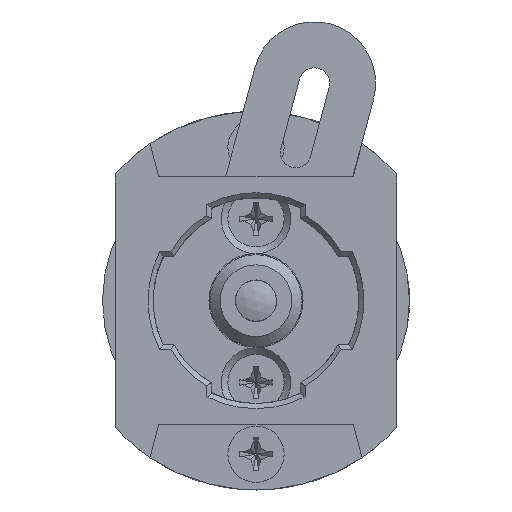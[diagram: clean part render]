
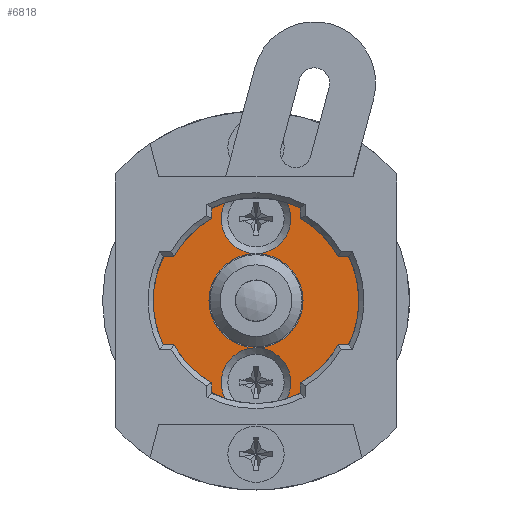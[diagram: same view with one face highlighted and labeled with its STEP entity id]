
A CAD part, left-side view. The second image highlights one B-rep face of the part: STEP entity #6818.
In plain terms, the highlighted planar face has unit normal (-1, 0, 0).
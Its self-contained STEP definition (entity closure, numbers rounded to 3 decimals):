
#280=LINE('',#9471,#686);
#283=LINE('',#9479,#689);
#686=VECTOR('',#7846,1000.);
#689=VECTOR('',#7855,1000.);
#1113=ORIENTED_EDGE('',*,*,#2537,.T.);
#1114=ORIENTED_EDGE('',*,*,#2538,.T.);
#1115=ORIENTED_EDGE('',*,*,#2530,.T.);
#1116=ORIENTED_EDGE('',*,*,#2536,.T.);
#1117=ORIENTED_EDGE('',*,*,#2534,.T.);
#1118=ORIENTED_EDGE('',*,*,#2532,.T.);
#1119=ORIENTED_EDGE('',*,*,#2539,.T.);
#1120=ORIENTED_EDGE('',*,*,#2540,.T.);
#1121=ORIENTED_EDGE('',*,*,#2541,.T.);
#1122=ORIENTED_EDGE('',*,*,#2542,.T.);
#2530=EDGE_CURVE('',#3246,#3245,#3744,.T.);
#2532=EDGE_CURVE('',#3247,#3246,#280,.T.);
#2534=EDGE_CURVE('',#3248,#3247,#3745,.T.);
#2536=EDGE_CURVE('',#3245,#3248,#283,.T.);
#2537=EDGE_CURVE('',#3249,#3249,#3746,.F.);
#2538=EDGE_CURVE('',#3250,#3250,#3747,.F.);
#2539=EDGE_CURVE('',#3251,#3252,#3748,.T.);
#2540=EDGE_CURVE('',#3252,#3252,#3749,.T.);
#2541=EDGE_CURVE('',#3252,#3251,#3750,.T.);
#2542=EDGE_CURVE('',#3251,#3251,#3751,.T.);
#3245=VERTEX_POINT('',#9466);
#3246=VERTEX_POINT('',#9468);
#3247=VERTEX_POINT('',#9472);
#3248=VERTEX_POINT('',#9476);
#3249=VERTEX_POINT('',#9482);
#3250=VERTEX_POINT('',#9484);
#3251=VERTEX_POINT('',#9486);
#3252=VERTEX_POINT('',#9487);
#3744=CIRCLE('',#7218,18.5);
#3745=CIRCLE('',#7221,18.5);
#3746=CIRCLE('',#7224,1.53);
#3747=CIRCLE('',#7225,1.53);
#3748=CIRCLE('',#7226,4.6);
#3749=CIRCLE('',#7227,3.4);
#3750=CIRCLE('',#7228,4.6);
#3751=CIRCLE('',#7229,3.4);
#3976=EDGE_LOOP('',(#1113));
#3977=EDGE_LOOP('',(#1114));
#3978=EDGE_LOOP('',(#1115,#1116,#1117,#1118));
#3979=EDGE_LOOP('',(#1119,#1120,#1121,#1122));
#4496=FACE_BOUND('',#3976,.T.);
#4497=FACE_BOUND('',#3977,.T.);
#4498=FACE_BOUND('',#3978,.T.);
#4499=FACE_BOUND('',#3979,.T.);
#5016=PLANE('',#7223);
#6818=ADVANCED_FACE('',(#4496,#4497,#4498,#4499),#5016,.T.);
#7218=AXIS2_PLACEMENT_3D('',#9467,#7841,#7842);
#7221=AXIS2_PLACEMENT_3D('',#9475,#7850,#7851);
#7223=AXIS2_PLACEMENT_3D('',#9480,#7856,#7857);
#7224=AXIS2_PLACEMENT_3D('',#9481,#7858,#7859);
#7225=AXIS2_PLACEMENT_3D('',#9483,#7860,#7861);
#7226=AXIS2_PLACEMENT_3D('',#9485,#7862,#7863);
#7227=AXIS2_PLACEMENT_3D('',#9488,#7864,#7865);
#7228=AXIS2_PLACEMENT_3D('',#9489,#7866,#7867);
#7229=AXIS2_PLACEMENT_3D('',#9490,#7868,#7869);
#7841=DIRECTION('',(-1.,0.,0.));
#7842=DIRECTION('',(0.,0.741,-0.672));
#7846=DIRECTION('',(0.,0.,-1.));
#7850=DIRECTION('',(-1.,0.,0.));
#7851=DIRECTION('',(0.,-0.741,0.672));
#7855=DIRECTION('',(0.,0.,1.));
#7856=DIRECTION('',(-1.,0.,0.));
#7857=DIRECTION('',(0.,0.,-1.));
#7858=DIRECTION('',(-1.,0.,0.));
#7859=DIRECTION('',(0.,0.,-1.));
#7860=DIRECTION('',(-1.,0.,0.));
#7861=DIRECTION('',(0.,0.,-1.));
#7862=DIRECTION('',(1.,0.,0.));
#7863=DIRECTION('',(0.,0.,1.));
#7864=DIRECTION('',(1.,0.,0.));
#7865=DIRECTION('',(0.,0.,-1.));
#7866=DIRECTION('',(1.,0.,0.));
#7867=DIRECTION('',(0.,0.,-1.));
#7868=DIRECTION('',(1.,0.,0.));
#7869=DIRECTION('',(0.,0.,1.));
#9466=CARTESIAN_POINT('',(-44.,-13.7,-12.432));
#9467=CARTESIAN_POINT('',(-44.,0.,0.));
#9468=CARTESIAN_POINT('',(-44.,13.7,-12.432));
#9471=CARTESIAN_POINT('',(-44.,13.7,12.432));
#9472=CARTESIAN_POINT('',(-44.,13.7,12.432));
#9475=CARTESIAN_POINT('',(-44.,0.,0.));
#9476=CARTESIAN_POINT('',(-44.,-13.7,12.432));
#9479=CARTESIAN_POINT('',(-44.,-13.7,-12.432));
#9480=CARTESIAN_POINT('',(-44.,13.7,18.661));
#9481=CARTESIAN_POINT('',(-44.,0.,15.));
#9482=CARTESIAN_POINT('',(-44.,0.,13.47));
#9483=CARTESIAN_POINT('',(-44.,0.,-15.));
#9484=CARTESIAN_POINT('',(-44.,0.,-16.53));
#9485=CARTESIAN_POINT('',(-44.,0.,0.));
#9486=CARTESIAN_POINT('',(-44.,0.,4.6));
#9487=CARTESIAN_POINT('',(-44.,0.,-4.6));
#9488=CARTESIAN_POINT('',(-44.,0.,-8.));
#9489=CARTESIAN_POINT('',(-44.,0.,0.));
#9490=CARTESIAN_POINT('',(-44.,0.,8.));
